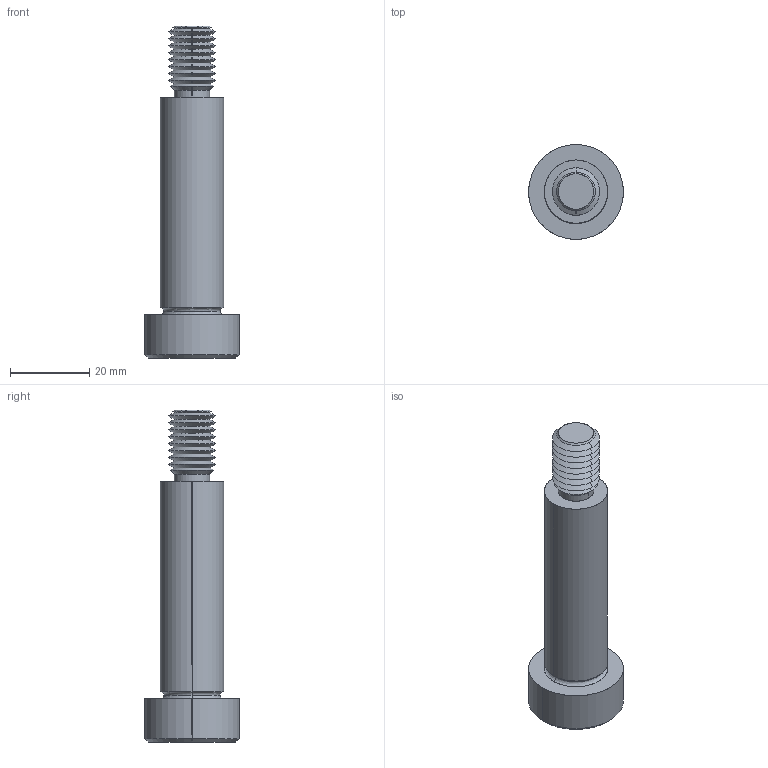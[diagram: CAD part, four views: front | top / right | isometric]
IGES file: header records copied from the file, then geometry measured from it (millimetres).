
Start section: SolidWorks IGES file using analytic representation for surfaces
Global section: file name: C:\Users\IanO\Documents\Temp Folder\GENERAL\SCREW REVISION\P0130_v2\P0130.T5_v2_20220106_IGES\P0130.160-055-T5.igs; native system: SolidWorks 2019; preprocessor: SolidWorks 2019; author: IanO; date: 220106.225526; units: millimetre
Bounding box: 24 x 24 x 84 mm (x, y, z)
Surface area: 5811.1 mm2 (no closed solid volume)
Topology: 0 solids, 0 shells, 76 faces, 588 edges, 586 vertices
Faces by surface type: revolution 56, bspline 20
